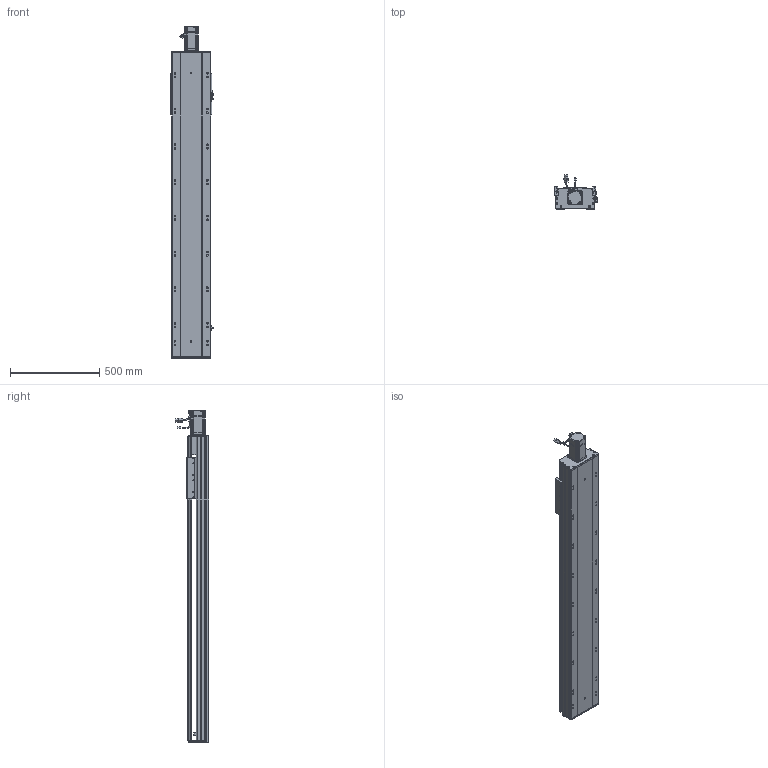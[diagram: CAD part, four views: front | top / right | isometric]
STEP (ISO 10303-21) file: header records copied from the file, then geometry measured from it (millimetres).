
FILE_DESCRIPTION (( 'STEP AP203' ), '1' );
FILE_NAME ('RY220-L2525-300-MK.SLDASM_1300.step', '2022-07-04T02:58:10', ( '' ), ( '' ), 'SwSTEP 2.0', 'SolidWorks 2016', '' );
FILE_SCHEMA (( 'CONFIG_CONTROL_DESIGN' ));
Length unit declared in the file: millimetre
Products named in the file (12): 滅袉蝶18-15; 滅袉蝶18-12; 覜茼ん672; RY220綴裔啣; RY220-L2525-300-MK.SLDASM_1300; 怢湛750W_ECMA-CX0807ES; RY220-俋离672覜茼んえ; RY220-300-奻裔啣-MK_1300; RY220半封闭25-32螺母铝滑块; RY220ヶ裔啣; RY220菁釱MK-300_1300; RY220电机支撑座FK20（PCD90M6）
Assembly tree (15 placements, depth 2):
  RY220-L2525-300-MK.SLDASM_1300
    RY220菁釱MK-300_1300
    RY220电机支撑座FK20（PCD90M6）
    怢湛750W_ECMA-CX0807ES
    滅袉蝶18-12  x2
    RY220ヶ裔啣
    RY220綴裔啣
    覜茼ん672  x3
    RY220半封闭25-32螺母铝滑块
    RY220-300-奻裔啣-MK_1300
    RY220-俋离672覜茼んえ
    滅袉蝶18-15  x2
Bounding box: 238.7 x 187.27 x 1858.3 mm (x, y, z)
Volume: 14311997 mm3; surface area: 4065427.6 mm2
Topology: 16 solids, 16 shells, 2282 faces, 6330 edges, 3986 vertices
Faces by surface type: cylinder 1044, plane 907, cone 269, bspline 36, sphere 16, torus 10
Entity records: 75154 total; most frequent: CARTESIAN_POINT 21343, ORIENTED_EDGE 11160, DIRECTION 10603, EDGE_CURVE 5580, AXIS2_PLACEMENT_3D 3751, VERTEX_POINT 3642, VECTOR 3101, LINE 3101
